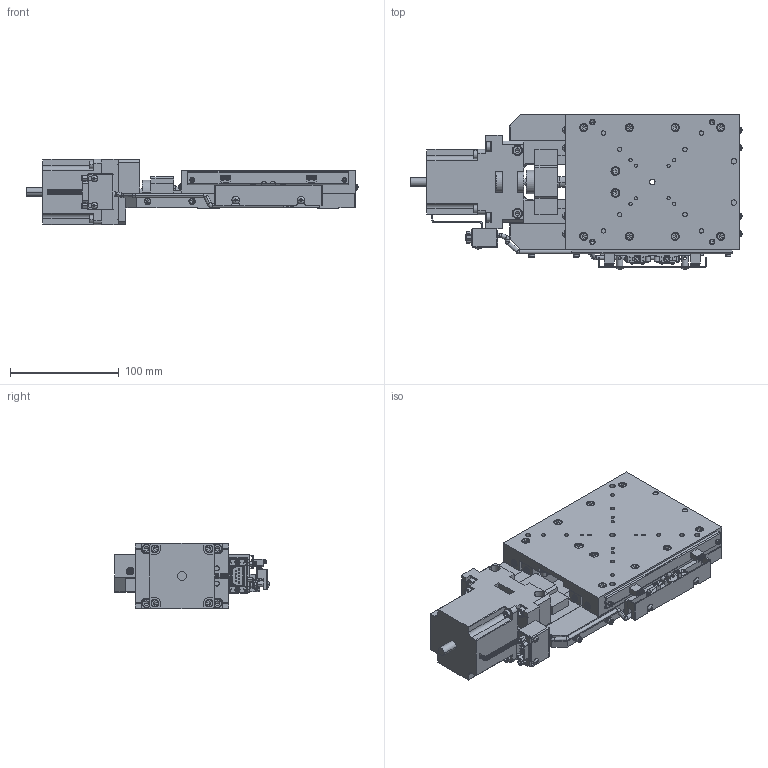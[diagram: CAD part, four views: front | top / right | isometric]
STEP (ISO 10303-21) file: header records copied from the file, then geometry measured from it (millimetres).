
FILE_DESCRIPTION( (''), '2;1');
FILE_NAME ('MVXA16A-R101.stp','2022-09-21T17:49:07',(''),(''),'spGate 17.5.5','','');
FILE_SCHEMA (('AUTOMOTIVE_DESIGN'));
Length unit declared in the file: millimetre
Products named in the file (3): Assembly; MVXA16A-R101-prt0; MVXA16A-R101-prt1
Assembly tree (2 placements, depth 2):
  Assembly
    MVXA16A-R101-prt0
    MVXA16A-R101-prt1
Bounding box: 305.29 x 142.39 x 60 mm (x, y, z)
Volume: 959642.4 mm3; surface area: 206567.9 mm2
Topology: 2 solids, 4 shells, 2833 faces, 6938 edges, 4232 vertices
Faces by surface type: plane 1619, cylinder 722, bspline 422, sphere 70
Entity records: 140350 total; most frequent: CARTESIAN_POINT 20648, ORIENTED_EDGE 13608, DIRECTION 12999, COLOUR_RGB 9639, PRESENTATION_STYLE_ASSIGNMENT 9639, STYLED_ITEM 9639, EDGE_CURVE 6804, DRAUGHTING_PRE_DEFINED_CURVE_FONT 6804
